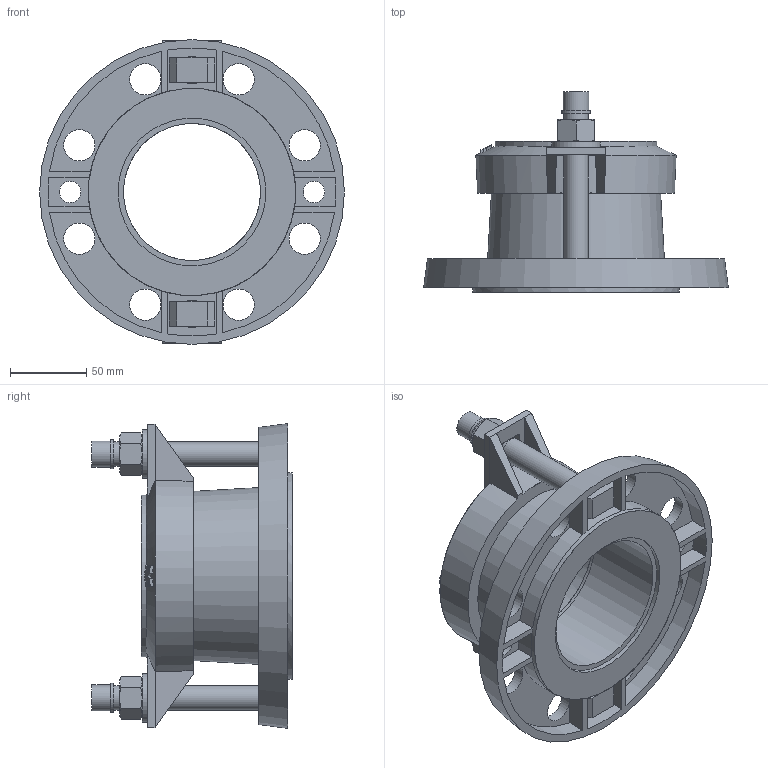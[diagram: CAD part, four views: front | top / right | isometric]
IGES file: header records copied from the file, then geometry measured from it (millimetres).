
Start section: SolidWorks IGES file using analytic representation for surfaces
Global section: file name: \\avksan2\techshare\PBM outline export from Enovia\O_623_10_DN080-90mm_X1XXXXX_REV01.igs; native system: SolidWorks 2019; preprocessor: SolidWorks 2019; author: pbm; date: 200417.102451; units: millimetre
Bounding box: 200 x 131.5 x 200 mm (x, y, z)
Surface area: 164406.4 mm2 (no closed solid volume)
Topology: 0 solids, 0 shells, 237 faces, 1154 edges, 1116 vertices
Faces by surface type: bspline 142, revolution 95
